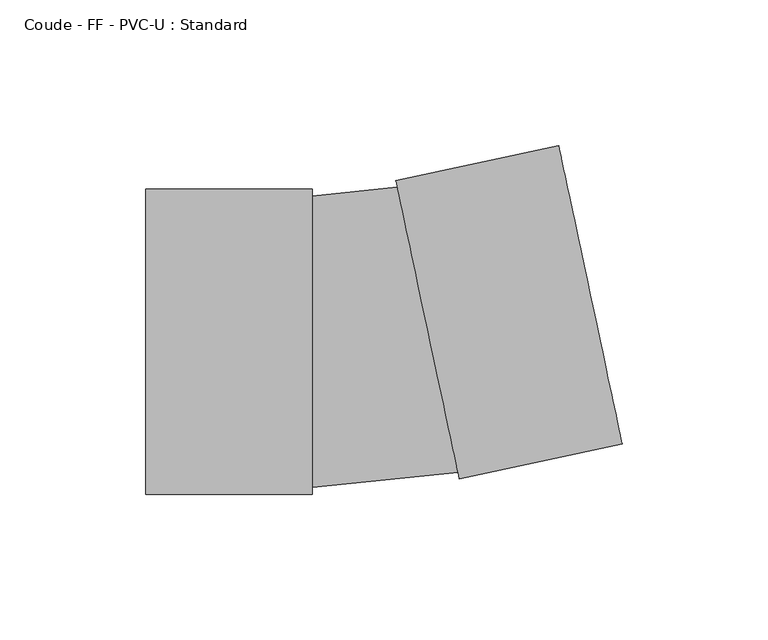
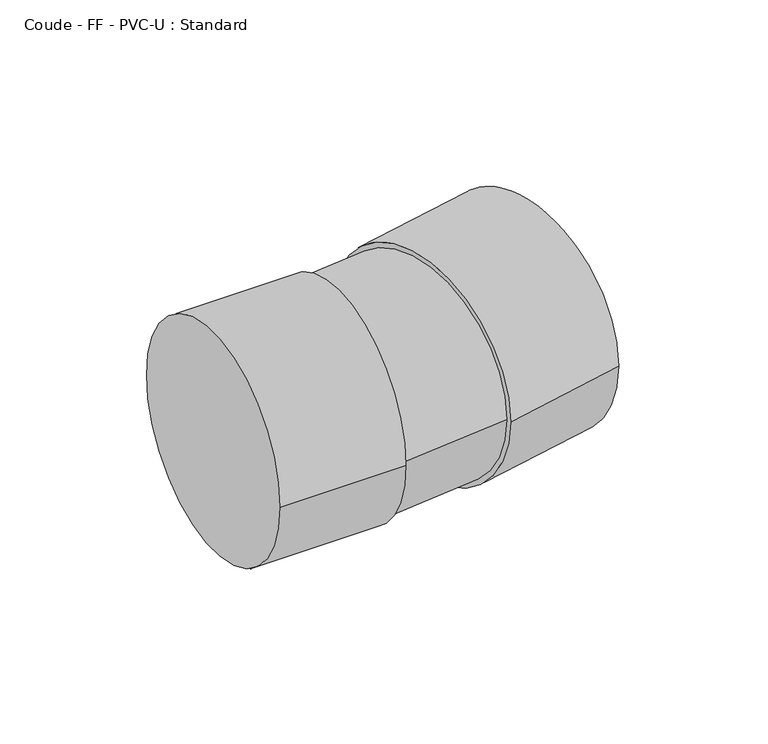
"""IFC4 building model written with IfcOpenShell, lengths in millimetres: pipe fitting geometry, Coude - FF - PVC-U : Standard."""

import ifcopenshell
import ifcopenshell.guid

model = None  # the IFC model being written
_history = None  # IfcOwnerHistory: only IFC2X3 demands one
_inside = {}  # id of a spatial element -> (the spatial element, [elements in it])
_under = {}  # id of a project, library or spatial element -> (it, [spatial elements below it])
_declared = {}  # id of a project -> (the project, [libraries it declares])
_typed = {}  # id of a type object -> (the type object, [elements of that type])
_made_of = {}  # id of a material, layer set ... -> (it, [elements and type objects made of it])


def new_model(schema):
    """Start an empty IFC model of exactly this schema.

    Asked for "IFC4X3", IfcOpenShell would pick the latest addendum, in which some entities
    have other attributes; the version numbers below select the first issue.
    IFC2X3 requires an IfcOwnerHistory on every rooted entity: one is made here for all.
    """
    global model, _history
    if schema == "IFC4X3":
        model = ifcopenshell.file(schema_version=(4, 3, 0, 0))
    else:
        model = ifcopenshell.file(schema=schema)
    _inside.clear()
    _under.clear()
    _declared.clear()
    _typed.clear()
    _made_of.clear()
    _history = None
    if model.schema == "IFC2X3":
        org = make("IfcOrganization", Name="unknown")
        user = make(
            "IfcPersonAndOrganization",
            ThePerson=make("IfcPerson", FamilyName="unknown"),
            TheOrganization=org,
        )
        app = make(
            "IfcApplication",
            ApplicationDeveloper=org,
            Version="unknown",
            ApplicationFullName="unknown",
            ApplicationIdentifier="unknown",
        )
        _history = make(
            "IfcOwnerHistory",
            OwningUser=user,
            OwningApplication=app,
            ChangeAction="ADDED",
            CreationDate=0,
        )
    return model


def make(cls, **values):
    """One entity of the class cls with the attributes given. An attribute that is None is left unset."""
    return model.create_entity(
        cls, **{name: value for name, value in values.items() if value is not None}
    )


def rooted(cls, **values):
    """An entity with a GlobalId (a new one), such as an element, a storey or a relation."""
    return make(cls, GlobalId=ifcopenshell.guid.new(), OwnerHistory=_history, **values)


def si_unit(unit_type, name, prefix=None):
    """IfcSIUnit, for example si_unit("LENGTHUNIT", "METRE", prefix="MILLI")."""
    return make("IfcSIUnit", UnitType=unit_type, Prefix=prefix, Name=name)


def assignment(units):
    """IfcUnitAssignment: the units of a project."""
    return None if units is None else make("IfcUnitAssignment", Units=units)


def point(xyz):
    """IfcCartesianPoint."""
    return None if xyz is None else make("IfcCartesianPoint", Coordinates=xyz)


def direction(xyz):
    """IfcDirection."""
    return None if xyz is None else make("IfcDirection", DirectionRatios=xyz)


def frame(location, z_axis=None, x_axis=None):
    """IfcAxis2Placement3D, a coordinate frame: its origin and axes. An axis left out is left unset."""
    return make(
        "IfcAxis2Placement3D",
        Location=point(location),
        Axis=direction(z_axis),
        RefDirection=direction(x_axis),
    )


def origin():
    """The frame at (0, 0, 0) with its axes left unset."""
    return frame((0.0, 0.0, 0.0))


def place(relative_to, where):
    """IfcLocalPlacement: puts the frame where relative to a parent placement (None: the world)."""
    return make(
        "IfcLocalPlacement", PlacementRelTo=relative_to, RelativePlacement=where
    )


def context(
    kind, dimensions, precision=None, world=None, true_north=None, identifier=None
):
    """IfcGeometricRepresentationContext, for example the 3D "Model" context."""
    return make(
        "IfcGeometricRepresentationContext",
        ContextIdentifier=identifier,
        ContextType=kind,
        CoordinateSpaceDimension=dimensions,
        Precision=precision,
        WorldCoordinateSystem=world,
        TrueNorth=true_north,
    )


def project(units=None, contexts=None):
    """IfcProject with its units and contexts."""
    return rooted(
        "IfcProject",
        Name="project",
        RepresentationContexts=contexts,
        UnitsInContext=assignment(units),
    )


def spatial(cls, under=None, at=None, **own):
    """A site, building, storey or space (cls), placed at a placement, below another one or the project."""
    s = rooted(cls, ObjectPlacement=at, **own)
    if under is not None:
        _under.setdefault(under.id(), (under, []))[1].append(s)
    return s


def circle_curve(where, radius):
    """IfcCircle in the frame where."""
    return make("IfcCircle", Position=where, Radius=radius)


def ellipse_curve(where, semi_axis1, semi_axis2):
    """IfcEllipse in the frame where."""
    return make(
        "IfcEllipse", Position=where, SemiAxis1=semi_axis1, SemiAxis2=semi_axis2
    )


def trimmed(basis, trim1, trim2, sense, master):
    """IfcTrimmedCurve: the piece of a basis curve between two trims."""
    return make(
        "IfcTrimmedCurve",
        BasisCurve=basis,
        Trim1=trim1,
        Trim2=trim2,
        SenseAgreement=sense,
        MasterRepresentation=master,
    )


def shape(context_of_items, identifier, shape_type, items):
    """IfcShapeRepresentation: the items that make up one representation, for example the "Body"."""
    return make(
        "IfcShapeRepresentation",
        ContextOfItems=context_of_items,
        RepresentationIdentifier=identifier,
        RepresentationType=shape_type,
        Items=items,
    )


def source(mapping_origin, context_of_items, identifier, shape_type, items):
    """IfcRepresentationMap: a shape defined once, which mapped items show again and again."""
    return make(
        "IfcRepresentationMap",
        MappingOrigin=mapping_origin,
        MappedRepresentation=shape(context_of_items, identifier, shape_type, items),
    )


def transform(
    local_origin,
    x_axis=None,
    y_axis=None,
    z_axis=None,
    scale=None,
    scale2=None,
    scale3=None,
    uniform=True,
):
    """IfcCartesianTransformationOperator3D, or its non-uniform kind. x_axis, y_axis, z_axis: its Axis1, 2, 3."""
    if uniform:
        return make(
            "IfcCartesianTransformationOperator3D",
            Axis1=direction(x_axis),
            Axis2=direction(y_axis),
            LocalOrigin=point(local_origin),
            Scale=scale,
            Axis3=direction(z_axis),
        )
    return make(
        "IfcCartesianTransformationOperator3DnonUniform",
        Axis1=direction(x_axis),
        Axis2=direction(y_axis),
        LocalOrigin=point(local_origin),
        Scale=scale,
        Axis3=direction(z_axis),
        Scale2=scale2,
        Scale3=scale3,
    )


def mapped(mapping_source, mapping_target):
    """IfcMappedItem: shows the shape of a source again, moved by a transform."""
    return make(
        "IfcMappedItem", MappingSource=mapping_source, MappingTarget=mapping_target
    )


def made_of(thing, what):
    """Note that an element or type object is made of a material, layer set ...; save() writes the relation."""
    if what is not None:
        _made_of.setdefault(what.id(), (what, []))[1].append(thing)
    return thing


def element(
    cls,
    number,
    at=None,
    inside=None,
    cuts=None,
    type_object=None,
    material=None,
    context=None,
    identifier="Body",
    shape_type=None,
    held_by="IfcProductDefinitionShape",
    body=None,
    shapes=None,
    **own,
):
    """One element of the class cls, such as IfcWall. Its Tag is "e" and its number.

    at: its placement. inside: the storey or other place that contains it. cuts: it is an
    opening in that element (IfcRelVoidsElement). A single representation is given by context,
    identifier, shape_type and body (its items); several are given by shapes. held_by: the class
    of the entity that holds the representations. save() writes the other relations.
    """
    e = rooted(cls, Tag="e%d" % number, ObjectPlacement=at, **own)
    if body is not None:
        shapes = [shape(context, identifier, shape_type, body)]
    if shapes is not None:
        e.Representation = make(held_by, Representations=shapes)
    if inside is not None:
        _inside.setdefault(inside.id(), (inside, []))[1].append(e)
    if cuts is not None:
        rooted(
            "IfcRelVoidsElement", RelatingBuildingElement=cuts, RelatedOpeningElement=e
        )
    if type_object is not None:
        _typed.setdefault(type_object.id(), (type_object, []))[1].append(e)
    return made_of(e, material)


def aggregate(whole, parts):
    """IfcRelAggregates: a whole, such as a stair, and the parts it consists of."""
    return rooted("IfcRelAggregates", RelatingObject=whole, RelatedObjects=parts)


def save(model, path):
    """Write the relations noted so far, then the file.

    IfcRelAggregates (storeys below a building ...), IfcRelContainedInSpatialStructure (elements
    in a storey), IfcRelDefinesByType, IfcRelAssociatesMaterial and IfcRelDeclares: one each for
    every whole, place, type object, material and project.
    """
    for whole, parts in _under.values():
        aggregate(whole, parts)
    for where, things in _inside.values():
        rooted(
            "IfcRelContainedInSpatialStructure",
            RelatedElements=things,
            RelatingStructure=where,
        )
    for kind, things in _typed.values():
        rooted("IfcRelDefinesByType", RelatedObjects=things, RelatingType=kind)
    for what, things in _made_of.values():
        rooted("IfcRelAssociatesMaterial", RelatedObjects=things, RelatingMaterial=what)
    for by, libraries in _declared.values():
        rooted("IfcRelDeclares", RelatingContext=by, RelatedDefinitions=libraries)
    model.write(path)


def plane_surface(at):
    """IfcPlane: the flat surface through the origin of the frame at, square to its z axis."""
    return make("IfcPlane", Position=at)


def cylinder_surface(at, radius):
    """IfcCylindricalSurface: all points at the distance radius from the z axis of the frame at."""
    return make("IfcCylindricalSurface", Position=at, Radius=radius)


def revolved_surface(curve, axis_point, axis_direction):
    """IfcSurfaceOfRevolution: the curve turned about the line through axis_point along axis_direction."""
    return make(
        "IfcSurfaceOfRevolution",
        SweptCurve=make("IfcArbitraryOpenProfileDef", ProfileType="CURVE", Curve=curve),
        AxisPosition=make("IfcAxis1Placement", Location=point(axis_point), Axis=direction(axis_direction)),
    )


def advanced_brep(points, edges, surfaces, faces):
    """IfcAdvancedBrep: a solid bounded by faces that lie on surfaces and meet in shared edges.

    An edge is (start, end): straight between two places in points (the first is 0);
    or (start, end, curve); or (start, end, curve, False) where it runs against its curve.
    A face is (place in surfaces, loops), or (place, loops, False) where it looks against
    its surface's normal. A loop lists edges by number (the first is 1), with a minus sign
    where the edge is run from its end to its start. The first loop is the outer one.
    """
    corners = [point(p) for p in points]
    vertices = [make("IfcVertexPoint", VertexGeometry=c) for c in corners]
    made = []
    for start, end, *more in edges:
        made.append(
            make(
                "IfcEdgeCurve",
                EdgeStart=vertices[start],
                EdgeEnd=vertices[end],
                EdgeGeometry=more[0] if more else make("IfcPolyline", Points=[corners[start], corners[end]]),
                SameSense=more[1] if len(more) > 1 else True,
            )
        )
    hull = []
    for where, loops, *sense in faces:
        bounds = []
        for j, loop in enumerate(loops):
            ring = [make("IfcOrientedEdge", EdgeElement=made[abs(k) - 1], Orientation=k > 0) for k in loop]
            bounds.append(
                make(
                    "IfcFaceOuterBound" if j == 0 else "IfcFaceBound",
                    Bound=make("IfcEdgeLoop", EdgeList=ring),
                    Orientation=True,
                )
            )
        hull.append(make("IfcAdvancedFace", Bounds=bounds, FaceSurface=surfaces[where], SameSense=sense[0] if sense else True))
    return make("IfcAdvancedBrep", Outer=make("IfcClosedShell", CfsFaces=hull))


def coude_ff_pvc_u_standard_714bcb6f(model_context):
    return source(origin(), model_context, "Body", "AdvancedBrep", [
        advanced_brep(
        [(-77.0, -52.3, 0.0), (-77.0, 52.3, 0.0), (-20.0, -52.3, 0.0), (-20.0, 52.3, 0.0), (-20.0, -50.0, 0.0), (-20.0, 50.0, 0.0), (9.1686222, 53.0653971, 0.0), (29.9574785, -44.7498546, 0.0), (30.4356222, -46.9996053, 0.0), (8.6904785, 55.3151479, 0.0), (86.1903156, -35.1499573, 0.0), (64.4451719, 67.164796, 0.0)],
        [
            (0, 1, circle_curve(frame((-77.0, 0.0, 0.0), z_axis=(-1.0, 0.0, 0.0), x_axis=(0.0, 1.0, 0.0)), 52.3)),
            (1, 0, circle_curve(frame((-77.0, 0.0, 0.0), z_axis=(-1.0, 0.0, 0.0), x_axis=(0.0, 1.0, 0.0)), 52.3)),
            (2, 3, circle_curve(frame((-20.0, 0.0, 0.0), z_axis=(1.0, 0.0, 0.0), x_axis=(0.0, 1.0, 0.0)), 52.3)),
            (3, 2, circle_curve(frame((-20.0, 0.0, 0.0), z_axis=(1.0, 0.0, 0.0), x_axis=(0.0, 1.0, 0.0)), 52.3)),
            (4, 5, circle_curve(frame((-20.0, 0.0, 0.0), z_axis=(-1.0, 0.0, 0.0), x_axis=(0.0, 1.0, 0.0)), 50.0)),
            (5, 4, circle_curve(frame((-20.0, 0.0, 0.0), z_axis=(-1.0, 0.0, 0.0), x_axis=(0.0, 1.0, 0.0)), 50.0)),
            (0, 2),
            (3, 1),
            (6, 5, circle_curve(frame((-20.0, 190.3089317, 0.0), z_axis=(0.0, 0.0, -1.0), x_axis=(0.0, -1.0, 0.0)), 140.3089317)),
            (4, 7, circle_curve(frame((-20.0, 190.3089317, 0.0), z_axis=(0.0, 0.0, 1.0), x_axis=(0.0, -1.0, 0.0)), 240.3089317)),
            (7, 6, circle_curve(frame((19.5630503, 4.1577713, 0.0), z_axis=(-0.978152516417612, -0.20788856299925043, 0.0), x_axis=(-0.20788856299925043, 0.978152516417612, 0.0)), 50.0)),
            (6, 7, circle_curve(frame((19.5630503, 4.1577713, 0.0), z_axis=(-0.978152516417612, -0.20788856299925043, 0.0), x_axis=(-0.20788856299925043, 0.978152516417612, 0.0)), 50.0)),
            (8, 9, circle_curve(frame((19.5630503, 4.1577713, 0.0), z_axis=(-0.978152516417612, -0.20788856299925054, 0.0), x_axis=(-0.20788856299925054, 0.978152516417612, 0.0)), 52.3)),
            (9, 8, circle_curve(frame((19.5630503, 4.1577713, 0.0), z_axis=(-0.978152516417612, -0.20788856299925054, 0.0), x_axis=(-0.20788856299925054, 0.978152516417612, 0.0)), 52.3)),
            (10, 11, circle_curve(frame((75.3177438, 16.0074194, 0.0), z_axis=(0.978152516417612, 0.20788856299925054, 0.0), x_axis=(-0.20788856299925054, 0.978152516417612, 0.0)), 52.3)),
            (11, 10, circle_curve(frame((75.3177438, 16.0074194, 0.0), z_axis=(0.978152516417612, 0.20788856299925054, 0.0), x_axis=(-0.20788856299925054, 0.978152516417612, 0.0)), 52.3)),
            (8, 10),
            (11, 9),
        ],
        [
            plane_surface(frame((-77.0, 0.0, 0.0), z_axis=(-1.0, 0.0, 0.0), x_axis=(0.0, 0.0, 1.0))),
            plane_surface(frame((-20.0, 0.0, 0.0), z_axis=(1.0, 0.0, 0.0), x_axis=(0.0, 0.0, 1.0))),
            cylinder_surface(frame((-77.0, 0.0, 0.0), z_axis=(-1.0, 0.0, 0.0), x_axis=(0.0, 1.0, 0.0)), 52.3),
            revolved_surface(trimmed(ellipse_curve(frame((-20.0, 0.0, 0.0), z_axis=(-1.0, 0.0, 0.0), x_axis=(0.0, 1.0, 0.0)), 50.0, 50.0), [point((-20.0, -50.0, 0.0))], [point((-20.0, 50.0, 0.0))], True, "CARTESIAN"), (-20.0, 190.3089317, 0.0), (0.0, 0.0, 1.0)),
            revolved_surface(trimmed(ellipse_curve(frame((-20.0, 0.0, 0.0), z_axis=(-1.0, 0.0, 0.0), x_axis=(0.0, 1.0, 0.0)), 50.0, 50.0), [point((-20.0, 50.0, 0.0))], [point((-20.0, -50.0, 0.0))], True, "CARTESIAN"), (-20.0, 190.3089317, 0.0), (0.0, 0.0, 1.0)),
            plane_surface(frame((19.5630503, 4.1577713, 0.0), z_axis=(-0.978152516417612, -0.20788856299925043, 0.0), x_axis=(0.0, 0.0, 1.0))),
            plane_surface(frame((75.3177438, 16.0074194, 0.0), z_axis=(0.978152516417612, 0.20788856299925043, 0.0), x_axis=(0.0, 0.0, 1.0))),
            cylinder_surface(frame((19.5630503, 4.1577713, 0.0), z_axis=(-0.978152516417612, -0.20788856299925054, 0.0), x_axis=(-0.20788856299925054, 0.978152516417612, 0.0)), 52.3),
        ],
        [
            (0, [[1, 2]]),
            (1, [[3, 4], [5, 6]]),
            (2, [[-1, 7, -4, 8]]),
            (2, [[-2, -8, -3, -7]]),
            (3, [[9, -5, 10, 11]]),
            (4, [[-9, 12, -10, -6]]),
            (5, [[13, 14], [-11, -12]]),
            (6, [[15, 16]]),
            (7, [[-13, 17, -16, 18]]),
            (7, [[-14, -18, -15, -17]]),
        ],
    ),
    ])


if __name__ == "__main__":
    model = new_model("IFC4")
    model_context = context("Model", 3, world=origin())
    ifc_project = project(units=[si_unit("LENGTHUNIT", "METRE", prefix="MILLI")], contexts=[model_context])
    site = spatial("IfcSite", under=ifc_project)
    building = spatial("IfcBuilding", under=site)
    placement = place(None, origin())
    coude_ff_pvc_u_standard_shape = coude_ff_pvc_u_standard_714bcb6f(model_context)
    element("IfcPipeFitting", 1, ObjectType="Coude - FF - PVC-U : Standard", at=placement, inside=building, context=model_context, shape_type="MappedRepresentation", body=[
        mapped(coude_ff_pvc_u_standard_shape, transform((0.0, 0.0, 0.0), x_axis=(1.0, 0.0, 0.0), y_axis=(0.0, 1.0, 0.0), z_axis=(0.0, 0.0, 1.0))),
    ])
    save(model, "model.ifc")
